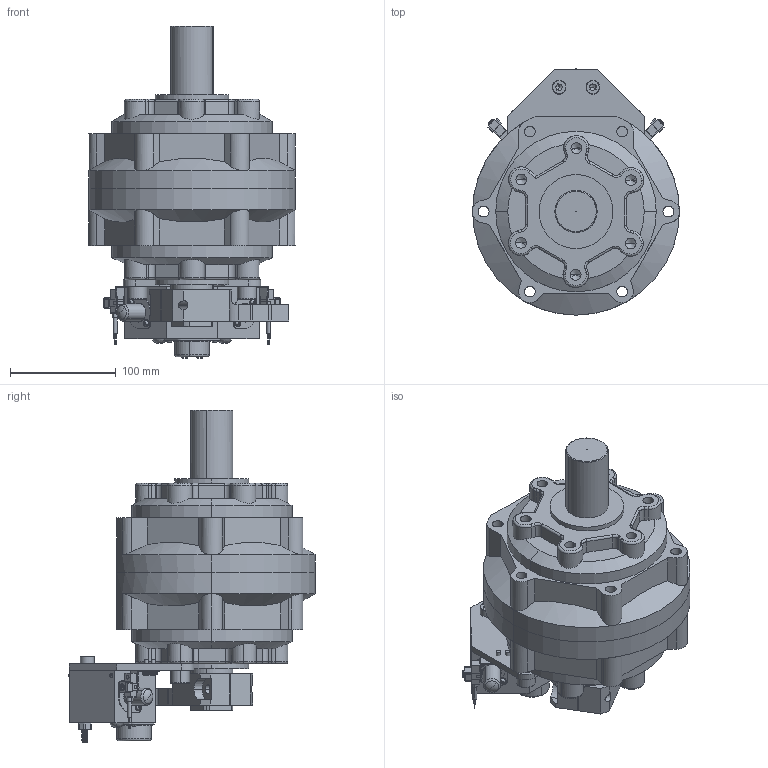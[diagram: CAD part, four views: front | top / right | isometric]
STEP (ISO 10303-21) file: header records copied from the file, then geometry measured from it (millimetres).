
FILE_DESCRIPTION (( 'STEP AP203' ), '1' );
FILE_NAME ('PRN800#-#-#-#-FC.STEP', '2016-01-14T16:51:14', ( '' ), ( '' ), 'SwSTEP 2.0', 'SolidWorks 2014', '' );
FILE_SCHEMA (( 'CONFIG_CONTROL_DESIGN' ));
Length unit declared in the file: millimetre
Products named in the file (26): FC-800-300-150-六孔螺帽2; 側鐵片; PRN800 (2); 1; PRN800#-#-#-#-FC; CRN-800; 板金3; FC-800-300-150-PRO-CR2; FC-800-300-PRO-CR1-150; M4螺絲; FC-800-300-150-螺絲; 感應開關-板金3; PRN800 (1); PRN800 (3); FC-800-300-150-螺帽; FC-800-300-150-活動珠身體; FC-800-300-150-零件4; 零件7^FC-800-300-150-PRN50-CR; FC-800-300-150-圓頂-2; FC-800-300-150-M8螺絲; 零件6^FC-800-300-150-PRN50-CR; FC-800-300-150-M8螺絲墊片; FC-800-300-150-PRN50-CR; mark-PRN800; FC-800-300-150-邊底座; FC-800-M12螺絲
Assembly tree (41 placements, depth 3):
  PRN800#-#-#-#-FC
    PRN800 (1)
    PRN800 (2)
    PRN800 (3)
    mark-PRN800
    FC-800-300-150-PRN50-CR
      FC-800-300-PRO-CR1-150
      FC-800-300-150-PRO-CR2
      FC-800-300-150-零件4
      FC-800-300-150-螺絲  x2
      FC-800-300-150-M8螺絲  x2
      FC-800-300-150-活動珠身體  x2
      FC-800-300-150-邊底座  x2
      FC-800-300-150-圓頂-2  x3
      FC-800-300-150-M8螺絲墊片  x2
      FC-800-300-150-螺帽  x2
      FC-800-M12螺絲  x2
      零件6^FC-800-300-150-PRN50-CR
      FC-800-300-150-六孔螺帽2  x6
      零件7^FC-800-300-150-PRN50-CR  x2
    CRN-800
    感應開關-板金3  x2
      1
      側鐵片
      M4螺絲
      板金3
Bounding box: 196 x 233.5 x 314.5 mm (x, y, z)
Volume: 4319669.5 mm3; surface area: 410110.7 mm2
Topology: 60 solids, 60 shells, 1482 faces, 3638 edges, 2279 vertices
Faces by surface type: plane 668, cylinder 502, torus 129, cone 117, sphere 42, bspline 24
Entity records: 38190 total; most frequent: CARTESIAN_POINT 10386, DIRECTION 5419, ORIENTED_EDGE 4972, EDGE_CURVE 2486, AXIS2_PLACEMENT_3D 2089, VERTEX_POINT 1583, VECTOR 1241, LINE 1241
